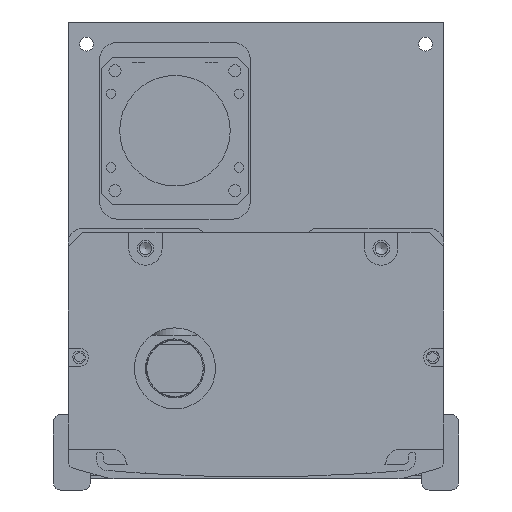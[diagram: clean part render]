
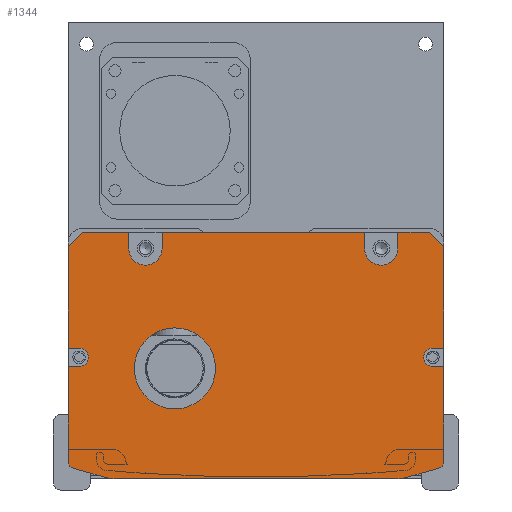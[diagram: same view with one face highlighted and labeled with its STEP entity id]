
A CAD part, front view. The second image highlights one B-rep face of the part: STEP entity #1344.
In plain terms, the highlighted planar face has unit normal (0, -1, 0).
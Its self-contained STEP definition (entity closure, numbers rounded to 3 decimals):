
#1344=ADVANCED_FACE('',(#3990,#3991),#2128,.F.);
#2128=PLANE('',#13024);
#2515=LINE('',#18638,#3277);
#2516=LINE('',#18641,#3278);
#2517=LINE('',#18643,#3279);
#2518=LINE('',#18645,#3280);
#2519=LINE('',#18649,#3281);
#2520=LINE('',#18651,#3282);
#2521=LINE('',#18653,#3283);
#2522=LINE('',#18657,#3284);
#2523=LINE('',#18659,#3285);
#2524=LINE('',#18661,#3286);
#2525=LINE('',#18663,#3287);
#2526=LINE('',#18665,#3288);
#2527=LINE('',#18669,#3289);
#2528=LINE('',#18671,#3290);
#2529=LINE('',#18675,#3291);
#2530=LINE('',#18679,#3292);
#2531=LINE('',#18683,#3293);
#2532=LINE('',#18687,#3294);
#2533=LINE('',#18689,#3295);
#2534=LINE('',#18693,#3296);
#3277=VECTOR('',#14759,1.);
#3278=VECTOR('',#14760,1.);
#3279=VECTOR('',#14761,1.);
#3280=VECTOR('',#14762,1.);
#3281=VECTOR('',#14765,1.);
#3282=VECTOR('',#14766,1.);
#3283=VECTOR('',#14767,1.);
#3284=VECTOR('',#14770,1.);
#3285=VECTOR('',#14771,1.);
#3286=VECTOR('',#14772,1.);
#3287=VECTOR('',#14773,1.);
#3288=VECTOR('',#14774,1.);
#3289=VECTOR('',#14777,1.);
#3290=VECTOR('',#14778,1.);
#3291=VECTOR('',#14781,1.);
#3292=VECTOR('',#14784,1.);
#3293=VECTOR('',#14787,1.);
#3294=VECTOR('',#14790,1.);
#3295=VECTOR('',#14791,1.);
#3296=VECTOR('',#14794,1.);
#3990=FACE_BOUND('',#4660,.T.);
#3991=FACE_BOUND('',#4661,.T.);
#4660=EDGE_LOOP('',(#5945,#5946,#5947,#5948,#5949,#5950,#5951,#5952,#5953,
#5954,#5955,#5956,#5957,#5958,#5959,#5960,#5961,#5962,#5963,#5964,#5965,
#5966,#5967,#5968,#5969,#5970,#5971,#5972));
#4661=EDGE_LOOP('',(#5973));
#5945=ORIENTED_EDGE('',*,*,#10625,.T.);
#5946=ORIENTED_EDGE('',*,*,#10626,.T.);
#5947=ORIENTED_EDGE('',*,*,#10627,.T.);
#5948=ORIENTED_EDGE('',*,*,#10628,.F.);
#5949=ORIENTED_EDGE('',*,*,#10629,.T.);
#5950=ORIENTED_EDGE('',*,*,#10630,.F.);
#5951=ORIENTED_EDGE('',*,*,#10631,.T.);
#5952=ORIENTED_EDGE('',*,*,#10632,.F.);
#5953=ORIENTED_EDGE('',*,*,#10633,.T.);
#5954=ORIENTED_EDGE('',*,*,#10634,.F.);
#5955=ORIENTED_EDGE('',*,*,#10635,.T.);
#5956=ORIENTED_EDGE('',*,*,#10636,.T.);
#5957=ORIENTED_EDGE('',*,*,#10637,.T.);
#5958=ORIENTED_EDGE('',*,*,#10638,.T.);
#5959=ORIENTED_EDGE('',*,*,#10639,.T.);
#5960=ORIENTED_EDGE('',*,*,#10640,.T.);
#5961=ORIENTED_EDGE('',*,*,#10641,.T.);
#5962=ORIENTED_EDGE('',*,*,#10642,.T.);
#5963=ORIENTED_EDGE('',*,*,#10643,.T.);
#5964=ORIENTED_EDGE('',*,*,#10644,.T.);
#5965=ORIENTED_EDGE('',*,*,#10645,.T.);
#5966=ORIENTED_EDGE('',*,*,#10646,.T.);
#5967=ORIENTED_EDGE('',*,*,#10647,.T.);
#5968=ORIENTED_EDGE('',*,*,#10648,.T.);
#5969=ORIENTED_EDGE('',*,*,#10649,.T.);
#5970=ORIENTED_EDGE('',*,*,#10650,.T.);
#5971=ORIENTED_EDGE('',*,*,#10651,.T.);
#5972=ORIENTED_EDGE('',*,*,#10652,.T.);
#5973=ORIENTED_EDGE('',*,*,#10653,.T.);
#9382=VERTEX_POINT('',#18639);
#9383=VERTEX_POINT('',#18640);
#9384=VERTEX_POINT('',#18642);
#9385=VERTEX_POINT('',#18644);
#9386=VERTEX_POINT('',#18646);
#9387=VERTEX_POINT('',#18648);
#9388=VERTEX_POINT('',#18650);
#9389=VERTEX_POINT('',#18652);
#9390=VERTEX_POINT('',#18654);
#9391=VERTEX_POINT('',#18656);
#9392=VERTEX_POINT('',#18658);
#9393=VERTEX_POINT('',#18660);
#9394=VERTEX_POINT('',#18662);
#9395=VERTEX_POINT('',#18664);
#9396=VERTEX_POINT('',#18666);
#9397=VERTEX_POINT('',#18668);
#9398=VERTEX_POINT('',#18670);
#9399=VERTEX_POINT('',#18672);
#9400=VERTEX_POINT('',#18674);
#9401=VERTEX_POINT('',#18676);
#9402=VERTEX_POINT('',#18678);
#9403=VERTEX_POINT('',#18680);
#9404=VERTEX_POINT('',#18682);
#9405=VERTEX_POINT('',#18684);
#9406=VERTEX_POINT('',#18686);
#9407=VERTEX_POINT('',#18688);
#9408=VERTEX_POINT('',#18690);
#9409=VERTEX_POINT('',#18692);
#9410=VERTEX_POINT('',#18695);
#10625=EDGE_CURVE('',#9382,#9383,#2515,.T.);
#10626=EDGE_CURVE('',#9383,#9384,#2516,.T.);
#10627=EDGE_CURVE('',#9384,#9385,#2517,.T.);
#10628=EDGE_CURVE('',#9386,#9385,#2518,.T.);
#10629=EDGE_CURVE('',#9386,#9387,#12249,.T.);
#10630=EDGE_CURVE('',#9388,#9387,#2519,.T.);
#10631=EDGE_CURVE('',#9388,#9389,#2520,.T.);
#10632=EDGE_CURVE('',#9390,#9389,#2521,.T.);
#10633=EDGE_CURVE('',#9390,#9391,#12250,.T.);
#10634=EDGE_CURVE('',#9392,#9391,#2522,.T.);
#10635=EDGE_CURVE('',#9392,#9393,#2523,.T.);
#10636=EDGE_CURVE('',#9393,#9394,#2524,.T.);
#10637=EDGE_CURVE('',#9394,#9395,#2525,.T.);
#10638=EDGE_CURVE('',#9395,#9396,#2526,.T.);
#10639=EDGE_CURVE('',#9396,#9397,#12251,.T.);
#10640=EDGE_CURVE('',#9397,#9398,#2527,.T.);
#10641=EDGE_CURVE('',#9398,#9399,#2528,.T.);
#10642=EDGE_CURVE('',#9399,#9400,#12252,.T.);
#10643=EDGE_CURVE('',#9400,#9401,#2529,.T.);
#10644=EDGE_CURVE('',#9401,#9402,#12253,.T.);
#10645=EDGE_CURVE('',#9402,#9403,#2530,.T.);
#10646=EDGE_CURVE('',#9403,#9404,#12254,.T.);
#10647=EDGE_CURVE('',#9404,#9405,#2531,.T.);
#10648=EDGE_CURVE('',#9405,#9406,#12255,.T.);
#10649=EDGE_CURVE('',#9406,#9407,#2532,.T.);
#10650=EDGE_CURVE('',#9407,#9408,#2533,.T.);
#10651=EDGE_CURVE('',#9408,#9409,#12256,.T.);
#10652=EDGE_CURVE('',#9409,#9382,#2534,.T.);
#10653=EDGE_CURVE('',#9410,#9410,#12257,.T.);
#12249=CIRCLE('',#13015,4.5);
#12250=CIRCLE('',#13016,4.5);
#12251=CIRCLE('',#13017,2.5);
#12252=CIRCLE('',#13018,2.);
#12253=CIRCLE('',#13019,10.);
#12254=CIRCLE('',#13020,10.);
#12255=CIRCLE('',#13021,2.);
#12256=CIRCLE('',#13022,2.5);
#12257=CIRCLE('',#13023,11.);
#13015=AXIS2_PLACEMENT_3D('',#18647,#14763,#14764);
#13016=AXIS2_PLACEMENT_3D('',#18655,#14768,#14769);
#13017=AXIS2_PLACEMENT_3D('',#18667,#14775,#14776);
#13018=AXIS2_PLACEMENT_3D('',#18673,#14779,#14780);
#13019=AXIS2_PLACEMENT_3D('',#18677,#14782,#14783);
#13020=AXIS2_PLACEMENT_3D('',#18681,#14785,#14786);
#13021=AXIS2_PLACEMENT_3D('',#18685,#14788,#14789);
#13022=AXIS2_PLACEMENT_3D('',#18691,#14792,#14793);
#13023=AXIS2_PLACEMENT_3D('',#18694,#14795,#14796);
#13024=AXIS2_PLACEMENT_3D('',#18696,#14797,#14798);
#14759=DIRECTION('',(0.,0.,1.));
#14760=DIRECTION('',(-0.707,0.,0.707));
#14761=DIRECTION('',(-1.,0.,0.));
#14762=DIRECTION('',(0.,0.,1.));
#14763=DIRECTION('',(0.,1.,0.));
#14764=DIRECTION('',(0.,0.,1.));
#14765=DIRECTION('',(0.,0.,-1.));
#14766=DIRECTION('',(-1.,0.,0.));
#14767=DIRECTION('',(0.,0.,1.));
#14768=DIRECTION('',(0.,1.,0.));
#14769=DIRECTION('',(0.,0.,1.));
#14770=DIRECTION('',(0.,0.,-1.));
#14771=DIRECTION('',(-1.,0.,0.));
#14772=DIRECTION('',(-0.707,0.,-0.707));
#14773=DIRECTION('',(0.,0.,-1.));
#14774=DIRECTION('',(1.,0.,0.));
#14775=DIRECTION('',(0.,1.,0.));
#14776=DIRECTION('',(0.,0.,1.));
#14777=DIRECTION('',(-1.,0.,0.));
#14778=DIRECTION('',(0.,0.,-1.));
#14779=DIRECTION('',(0.,-1.,0.));
#14780=DIRECTION('',(0.,0.,1.));
#14781=DIRECTION('',(0.963,0.,-0.269));
#14782=DIRECTION('',(0.,-1.,0.));
#14783=DIRECTION('',(0.,0.,1.));
#14784=DIRECTION('',(1.,0.,0.));
#14785=DIRECTION('',(0.,-1.,0.));
#14786=DIRECTION('',(0.,0.,-1.));
#14787=DIRECTION('',(0.963,0.,0.269));
#14788=DIRECTION('',(0.,-1.,0.));
#14789=DIRECTION('',(0.,0.,-1.));
#14790=DIRECTION('',(0.,0.,1.));
#14791=DIRECTION('',(-1.,0.,0.));
#14792=DIRECTION('',(0.,1.,0.));
#14793=DIRECTION('',(0.,0.,1.));
#14794=DIRECTION('',(1.,0.,0.));
#14795=DIRECTION('',(0.,1.,0.));
#14796=DIRECTION('',(0.,0.,1.));
#14797=DIRECTION('',(0.,1.,0.));
#14798=DIRECTION('',(-1.,0.,0.));
#18638=CARTESIAN_POINT('',(47.808,-517.5,-1.));
#18639=CARTESIAN_POINT('',(47.808,-517.5,-32.5));
#18640=CARTESIAN_POINT('',(47.808,-517.5,-5.));
#18641=CARTESIAN_POINT('',(43.808,-517.5,-1.));
#18642=CARTESIAN_POINT('',(43.808,-517.5,-1.));
#18643=CARTESIAN_POINT('',(-3.192,-517.5,-1.));
#18644=CARTESIAN_POINT('',(35.308,-517.5,-1.));
#18645=CARTESIAN_POINT('',(35.308,-517.5,-1.));
#18646=CARTESIAN_POINT('',(35.308,-517.5,-5.5));
#18647=CARTESIAN_POINT('',(30.808,-517.5,-5.5));
#18648=CARTESIAN_POINT('',(26.308,-517.5,-5.5));
#18649=CARTESIAN_POINT('',(26.308,-517.5,-1.));
#18650=CARTESIAN_POINT('',(26.308,-517.5,-1.));
#18651=CARTESIAN_POINT('',(-54.192,-517.5,-1.));
#18652=CARTESIAN_POINT('',(-28.692,-517.5,-1.));
#18653=CARTESIAN_POINT('',(-28.692,-517.5,-3.5));
#18654=CARTESIAN_POINT('',(-28.692,-517.5,-5.5));
#18655=CARTESIAN_POINT('',(-33.192,-517.5,-5.5));
#18656=CARTESIAN_POINT('',(-37.692,-517.5,-5.5));
#18657=CARTESIAN_POINT('',(-37.692,-517.5,-1.));
#18658=CARTESIAN_POINT('',(-37.692,-517.5,-1.));
#18659=CARTESIAN_POINT('',(-54.192,-517.5,-1.));
#18660=CARTESIAN_POINT('',(-50.192,-517.5,-1.));
#18661=CARTESIAN_POINT('',(-54.192,-517.5,-5.));
#18662=CARTESIAN_POINT('',(-54.192,-517.5,-5.));
#18663=CARTESIAN_POINT('',(-54.192,-517.5,-62.));
#18664=CARTESIAN_POINT('',(-54.192,-517.5,-32.5));
#18665=CARTESIAN_POINT('',(-3.192,-517.5,-32.5));
#18666=CARTESIAN_POINT('',(-51.192,-517.5,-32.5));
#18667=CARTESIAN_POINT('',(-51.192,-517.5,-35.));
#18668=CARTESIAN_POINT('',(-51.192,-517.5,-37.5));
#18669=CARTESIAN_POINT('',(-3.192,-517.5,-37.5));
#18670=CARTESIAN_POINT('',(-54.192,-517.5,-37.5));
#18671=CARTESIAN_POINT('',(-54.192,-517.5,-62.));
#18672=CARTESIAN_POINT('',(-54.192,-517.5,-63.212));
#18673=CARTESIAN_POINT('',(-52.192,-517.5,-63.212));
#18674=CARTESIAN_POINT('',(-52.731,-517.5,-65.138));
#18675=CARTESIAN_POINT('',(-55.807,-517.5,-64.279));
#18676=CARTESIAN_POINT('',(-43.809,-517.5,-67.631));
#18677=CARTESIAN_POINT('',(-41.118,-517.5,-58.));
#18678=CARTESIAN_POINT('',(-41.118,-517.5,-68.));
#18679=CARTESIAN_POINT('',(-54.692,-517.5,-68.));
#18680=CARTESIAN_POINT('',(34.733,-517.5,-68.));
#18681=CARTESIAN_POINT('',(34.733,-517.5,-58.));
#18682=CARTESIAN_POINT('',(37.424,-517.5,-67.631));
#18683=CARTESIAN_POINT('',(49.422,-517.5,-64.279));
#18684=CARTESIAN_POINT('',(46.346,-517.5,-65.138));
#18685=CARTESIAN_POINT('',(45.808,-517.5,-63.212));
#18686=CARTESIAN_POINT('',(47.808,-517.5,-63.212));
#18687=CARTESIAN_POINT('',(47.808,-517.5,-1.));
#18688=CARTESIAN_POINT('',(47.808,-517.5,-37.5));
#18689=CARTESIAN_POINT('',(-3.192,-517.5,-37.5));
#18690=CARTESIAN_POINT('',(44.808,-517.5,-37.5));
#18691=CARTESIAN_POINT('',(44.808,-517.5,-35.));
#18692=CARTESIAN_POINT('',(44.808,-517.5,-32.5));
#18693=CARTESIAN_POINT('',(-3.192,-517.5,-32.5));
#18694=CARTESIAN_POINT('',(-25.192,-517.5,-38.));
#18695=CARTESIAN_POINT('',(-25.192,-517.5,-27.));
#18696=CARTESIAN_POINT('',(-3.192,-517.5,-1.));
